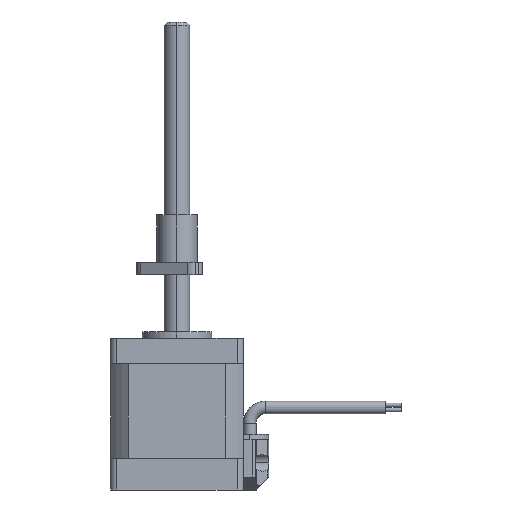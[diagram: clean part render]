
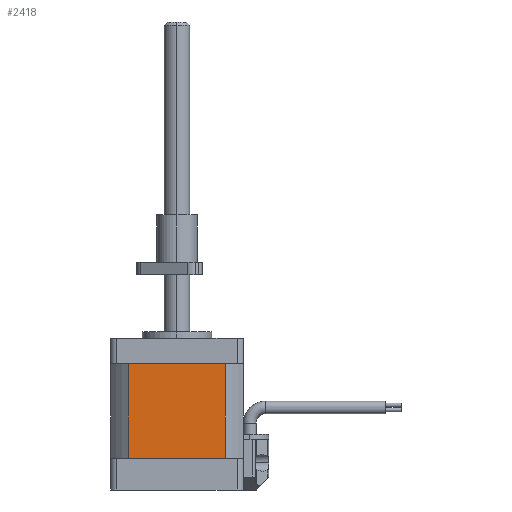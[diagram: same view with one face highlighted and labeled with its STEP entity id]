
A CAD part, left-side view. The second image highlights one B-rep face of the part: STEP entity #2418.
In plain terms, the highlighted planar face has unit normal (-1, 0, 0).
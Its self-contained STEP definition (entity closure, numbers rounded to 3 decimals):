
#109 = EDGE_CURVE ( 'NONE', #795, #2779, #4807, .T. ) ;
#182 = CARTESIAN_POINT ( 'NONE',  ( -21., 19., 10. ) ) ;
#189 = DIRECTION ( 'NONE',  ( 1., 0., 0. ) ) ;
#306 = CARTESIAN_POINT ( 'NONE',  ( -21., -15.33, 10. ) ) ;
#326 = VERTEX_POINT ( 'NONE', #306 ) ;
#795 = VERTEX_POINT ( 'NONE', #2450 ) ;
#848 = ORIENTED_EDGE ( 'NONE', *, *, #1113, .T. ) ;
#963 = CARTESIAN_POINT ( 'NONE',  ( -21., 15.33, 10. ) ) ;
#1113 = EDGE_CURVE ( 'NONE', #4718, #326, #1682, .T. ) ;
#1524 = LINE ( 'NONE', #3302, #1598 ) ;
#1531 = CARTESIAN_POINT ( 'NONE',  ( -21., 15.33, 40. ) ) ;
#1598 = VECTOR ( 'NONE', #2512, 1000. ) ;
#1682 = LINE ( 'NONE', #182, #4975 ) ;
#1751 = DIRECTION ( 'NONE',  ( 0., 0., 1. ) ) ;
#2070 = EDGE_CURVE ( 'NONE', #795, #326, #1524, .T. ) ;
#2147 = VECTOR ( 'NONE', #1751, 1000. ) ;
#2202 = DIRECTION ( 'NONE',  ( 0., 1., 0. ) ) ;
#2216 = VECTOR ( 'NONE', #2202, 1000. ) ;
#2220 = AXIS2_PLACEMENT_3D ( 'NONE', #3397, #189, #4201 ) ;
#2418 = ADVANCED_FACE ( 'NONE', ( #4819 ), #2987, .F. ) ;
#2450 = CARTESIAN_POINT ( 'NONE',  ( -21., -15.33, 40. ) ) ;
#2512 = DIRECTION ( 'NONE',  ( 0., 0., -1. ) ) ;
#2634 = EDGE_LOOP ( 'NONE', ( #4394, #4595, #2881, #848 ) ) ;
#2779 = VERTEX_POINT ( 'NONE', #1531 ) ;
#2881 = ORIENTED_EDGE ( 'NONE', *, *, #4537, .F. ) ;
#2987 = PLANE ( 'NONE',  #2220 ) ;
#3015 = DIRECTION ( 'NONE',  ( 0., -1., 0. ) ) ;
#3215 = LINE ( 'NONE', #4182, #2147 ) ;
#3302 = CARTESIAN_POINT ( 'NONE',  ( -21., -15.33, 40. ) ) ;
#3397 = CARTESIAN_POINT ( 'NONE',  ( -21., 19., 48. ) ) ;
#3785 = CARTESIAN_POINT ( 'NONE',  ( -21., 19., 40. ) ) ;
#4182 = CARTESIAN_POINT ( 'NONE',  ( -21., 15.33, 40. ) ) ;
#4201 = DIRECTION ( 'NONE',  ( 0., 1., 0. ) ) ;
#4394 = ORIENTED_EDGE ( 'NONE', *, *, #2070, .F. ) ;
#4537 = EDGE_CURVE ( 'NONE', #4718, #2779, #3215, .T. ) ;
#4595 = ORIENTED_EDGE ( 'NONE', *, *, #109, .T. ) ;
#4718 = VERTEX_POINT ( 'NONE', #963 ) ;
#4807 = LINE ( 'NONE', #3785, #2216 ) ;
#4819 = FACE_OUTER_BOUND ( 'NONE', #2634, .T. ) ;
#4975 = VECTOR ( 'NONE', #3015, 1000. ) ;
